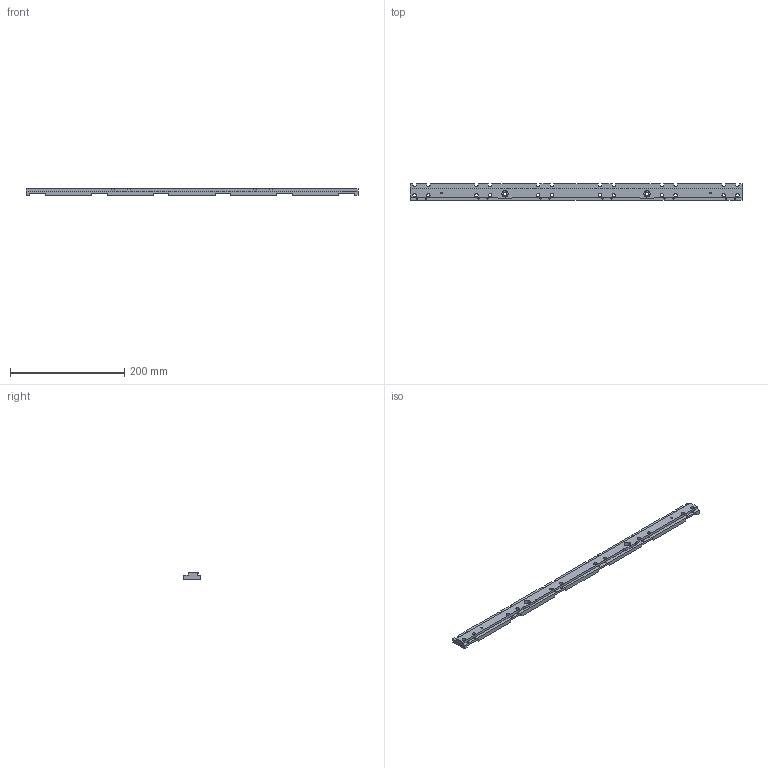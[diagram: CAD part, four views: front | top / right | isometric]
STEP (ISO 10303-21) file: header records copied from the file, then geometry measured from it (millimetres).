
FILE_DESCRIPTION(('STEP AP214'), '1');
FILE_NAME('P1.WSD5080.250.103.001 _ ﾍ瑜粱', '', ('UNSPECIFIED'), ('UNSPECIFIED'), 'C3D Converter', 'C3D Toolkit', '');
FILE_SCHEMA(('AUTOMOTIVE_DESIGN { 1 0 10303 214 3 1 1}'));
Length unit declared in the file: millimetre
Products named in the file (1): P1.WSD5080.250.103.001
Bounding box: 580 x 29.6 x 11.8 mm (x, y, z)
Volume: 137809.7 mm3; surface area: 51171.7 mm2
Topology: 1 solids, 1 shells, 151 faces, 490 edges, 322 vertices
Faces by surface type: plane 97, cylinder 52, cone 2
Full cylindrical faces by diameter (mm): 3 x12, 3.242 x2, 6 x12, 6.7 x2, 11 x2
Entity records: 5365 total; most frequent: CARTESIAN_POINT 928, DIRECTION 912, ORIENTED_EDGE 912, EDGE_CURVE 456, VERTEX_POINT 320, AXIS2_PLACEMENT_3D 304, LINE 304, VECTOR 304
